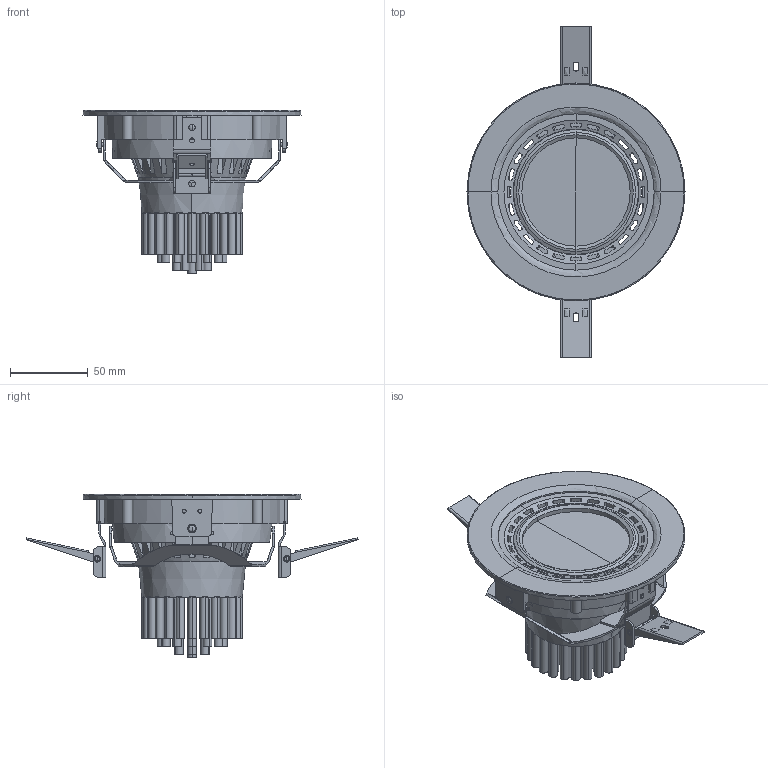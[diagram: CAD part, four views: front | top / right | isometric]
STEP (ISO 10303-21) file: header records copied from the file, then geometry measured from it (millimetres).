
FILE_DESCRIPTION(/* description */ (''),/* implementation_level */ '2;1');
FILE_NAME(/* name */ 'C:\Users\FrancoSartori\Documents\FARO\01_En Proceso\000_PRO\00_2 MINI OPTIC\03_Publicación\032503002.stp',/* time_stamp */ '2021-09-01T11:35:49+02:00',/* author */ ('FrancoSartori'),/* organization */ (''),/* preprocessor_version */ 'ST-DEVELOPER v18.1',/* originating_system */ 'AutoCAD Mechanical',/* authorisation */ '');
FILE_SCHEMA (('AUTOMOTIVE_DESIGN { 1 0 10303 214 3 1 1 }'));
Length unit declared in the file: millimetre
Products named in the file (2): Product; MINI OPTIC_ - Lamp-471067-View 1
Assembly tree (1 placements, depth 2):
  Product
    MINI OPTIC_ - Lamp-471067-View 1
Bounding box: 140.3 x 213.66 x 105 mm (x, y, z)
Volume: 219400.6 mm3; surface area: 206434.3 mm2
Topology: 82 solids, 82 shells, 1260 faces, 3082 edges, 1966 vertices
Faces by surface type: plane 578, cylinder 508, torus 86, cone 66, bspline 18, sphere 4
Entity records: 43571 total; most frequent: CARTESIAN_POINT 13721, DIRECTION 6252, ORIENTED_EDGE 6140, EDGE_CURVE 3070, AXIS2_PLACEMENT_3D 2393, VERTEX_POINT 1966, LINE 1466, VECTOR 1466
